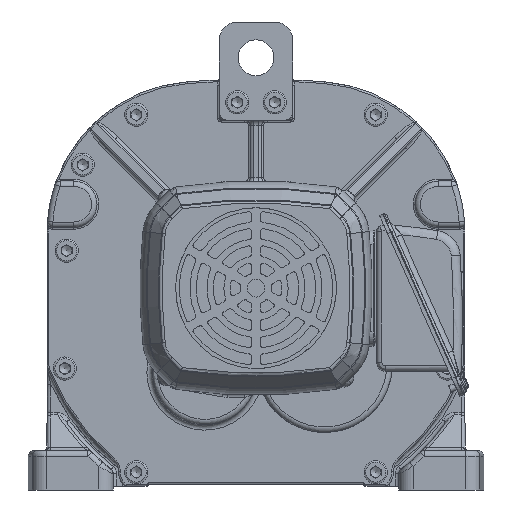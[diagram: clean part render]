
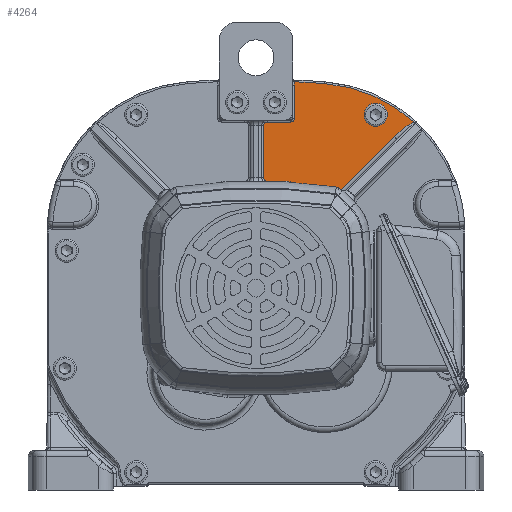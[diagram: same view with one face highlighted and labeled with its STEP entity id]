
A CAD part, front view. The second image highlights one B-rep face of the part: STEP entity #4264.
In plain terms, the highlighted planar face has unit normal (0, -1, 0).
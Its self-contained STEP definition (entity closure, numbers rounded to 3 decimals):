
#4264 = ADVANCED_FACE( '', ( #9738, #9739 ), #9740, .T. );
#9738 = FACE_OUTER_BOUND( '', #21964, .T. );
#9739 = FACE_BOUND( '', #21965, .T. );
#9740 = PLANE( '', #21966 );
#21964 = EDGE_LOOP( '', ( #43056, #43057, #43058, #43059, #43060, #43061, #43062, #43063, #43064, #43065, #43066, #43067, #43068, #43069, #43070 ) );
#21965 = EDGE_LOOP( '', ( #43071 ) );
#21966 = AXIS2_PLACEMENT_3D( '', #43072, #43073, #43074 );
#43056 = ORIENTED_EDGE( '', *, *, #56041, .T. );
#43057 = ORIENTED_EDGE( '', *, *, #56365, .T. );
#43058 = ORIENTED_EDGE( '', *, *, #56366, .T. );
#43059 = ORIENTED_EDGE( '', *, *, #56367, .T. );
#43060 = ORIENTED_EDGE( '', *, *, #56368, .T. );
#43061 = ORIENTED_EDGE( '', *, *, #55199, .T. );
#43062 = ORIENTED_EDGE( '', *, *, #53041, .T. );
#43063 = ORIENTED_EDGE( '', *, *, #56369, .T. );
#43064 = ORIENTED_EDGE( '', *, *, #52726, .T. );
#43065 = ORIENTED_EDGE( '', *, *, #52275, .T. );
#43066 = ORIENTED_EDGE( '', *, *, #56370, .F. );
#43067 = ORIENTED_EDGE( '', *, *, #52027, .T. );
#43068 = ORIENTED_EDGE( '', *, *, #55761, .T. );
#43069 = ORIENTED_EDGE( '', *, *, #54102, .T. );
#43070 = ORIENTED_EDGE( '', *, *, #56371, .T. );
#43071 = ORIENTED_EDGE( '', *, *, #54301, .F. );
#43072 = CARTESIAN_POINT( '', ( 200.839, 6.777, -103. ) );
#43073 = DIRECTION( '', ( 0., -1., 0. ) );
#43074 = DIRECTION( '', ( 0., 0., -1. ) );
#52027 = EDGE_CURVE( '', #59297, #59298, #59299, .T. );
#52275 = EDGE_CURVE( '', #59724, #59722, #59725, .F. );
#52726 = EDGE_CURVE( '', #60502, #59724, #60503, .T. );
#53041 = EDGE_CURVE( '', #61033, #61031, #61034, .F. );
#54102 = EDGE_CURVE( '', #62739, #62737, #62740, .T. );
#54301 = EDGE_CURVE( '', #63047, #63047, #63048, .T. );
#55199 = EDGE_CURVE( '', #64395, #61033, #64396, .F. );
#55761 = EDGE_CURVE( '', #59298, #62739, #65215, .F. );
#56041 = EDGE_CURVE( '', #65596, #65594, #65597, .F. );
#56365 = EDGE_CURVE( '', #65594, #62506, #66063, .F. );
#56366 = EDGE_CURVE( '', #62506, #66064, #66065, .T. );
#56367 = EDGE_CURVE( '', #66064, #66066, #66067, .T. );
#56368 = EDGE_CURVE( '', #66066, #64395, #66068, .F. );
#56369 = EDGE_CURVE( '', #61031, #60502, #66069, .F. );
#56370 = EDGE_CURVE( '', #59297, #59722, #66070, .F. );
#56371 = EDGE_CURVE( '', #62737, #65596, #66071, .F. );
#59297 = VERTEX_POINT( '', #70033 );
#59298 = VERTEX_POINT( '', #70034 );
#59299 = LINE( '', #70035, #70036 );
#59722 = VERTEX_POINT( '', #70990 );
#59724 = VERTEX_POINT( '', #70992 );
#59725 = LINE( '', #70993, #70994 );
#60502 = VERTEX_POINT( '', #72362 );
#60503 = CIRCLE( '', #72363, 2. );
#61031 = VERTEX_POINT( '', #73616 );
#61033 = VERTEX_POINT( '', #73618 );
#61034 = CIRCLE( '', #73619, 2. );
#62506 = VERTEX_POINT( '', #76488 );
#62737 = VERTEX_POINT( '', #77124 );
#62739 = VERTEX_POINT( '', #77126 );
#62740 = LINE( '', #77127, #77128 );
#63047 = VERTEX_POINT( '', #77602 );
#63048 = CIRCLE( '', #77603, 6.5 );
#64395 = VERTEX_POINT( '', #80144 );
#64396 = LINE( '', #80145, #80146 );
#65215 = CIRCLE( '', #81633, 16. );
#65594 = VERTEX_POINT( '', #82513 );
#65596 = VERTEX_POINT( '', #82515 );
#65597 = LINE( '', #82516, #82517 );
#66063 = ELLIPSE( '', #83542, 13.81, 3. );
#66064 = VERTEX_POINT( '', #83543 );
#66065 = CIRCLE( '', #83544, 84. );
#66066 = VERTEX_POINT( '', #83545 );
#66067 = CIRCLE( '', #83546, 499. );
#66068 = CIRCLE( '', #83547, 4. );
#66069 = LINE( '', #83548, #83549 );
#66070 = CIRCLE( '', #83550, 2. );
#66071 = CIRCLE( '', #83551, 16. );
#70033 = CARTESIAN_POINT( '', ( 140.089, 6.777, 59.804 ) );
#70034 = CARTESIAN_POINT( '', ( 149.527, 6.777, 59.804 ) );
#70035 = CARTESIAN_POINT( '', ( 149.527, 6.777, 59.804 ) );
#70036 = VECTOR( '', #89718, 1000. );
#70990 = CARTESIAN_POINT( '', ( 138.089, 6.777, 61.804 ) );
#70992 = CARTESIAN_POINT( '', ( 138.089, 6.777, 91. ) );
#70993 = CARTESIAN_POINT( '', ( 138.089, 6.777, 58.804 ) );
#70994 = VECTOR( '', #90061, 1000. );
#72362 = CARTESIAN_POINT( '', ( 140.089, 6.777, 93. ) );
#72363 = AXIS2_PLACEMENT_3D( '', #90732, #90733, #90734 );
#73616 = CARTESIAN_POINT( '', ( 153.339, 6.777, 93. ) );
#73618 = CARTESIAN_POINT( '', ( 155.339, 6.777, 95. ) );
#73619 = AXIS2_PLACEMENT_3D( '', #91207, #91208, #91209 );
#76488 = CARTESIAN_POINT( '', ( 222.529, 6.777, 92.75 ) );
#77124 = CARTESIAN_POINT( '', ( 170.587, 6.777, 56.337 ) );
#77126 = CARTESIAN_POINT( '', ( 152.305, 6.777, 59.561 ) );
#77127 = CARTESIAN_POINT( '', ( 170.587, 6.777, 56.337 ) );
#77128 = VECTOR( '', #92635, 1000. );
#77602 = CARTESIAN_POINT( '', ( 200.839, 6.777, 103.5 ) );
#77603 = AXIS2_PLACEMENT_3D( '', #92929, #92930, #92931 );
#80144 = CARTESIAN_POINT( '', ( 155.339, 6.777, 113.692 ) );
#80145 = CARTESIAN_POINT( '', ( 155.339, 6.777, -103. ) );
#80146 = VECTOR( '', #94082, 1000. );
#81633 = AXIS2_PLACEMENT_3D( '', #94872, #94873, #94874 );
#82513 = CARTESIAN_POINT( '', ( 211.293, 6.777, 84.879 ) );
#82515 = CARTESIAN_POINT( '', ( 178.708, 6.777, 52.294 ) );
#82516 = CARTESIAN_POINT( '', ( 217.648, 6.777, 91.233 ) );
#82517 = VECTOR( '', #95196, 1000. );
#83542 = AXIS2_PLACEMENT_3D( '', #95773, #95774, #95775 );
#83543 = CARTESIAN_POINT( '', ( 172.316, 6.777, 114.514 ) );
#83544 = AXIS2_PLACEMENT_3D( '', #95776, #95777, #95778 );
#83545 = CARTESIAN_POINT( '', ( 154.878, 6.777, 115.556 ) );
#83546 = AXIS2_PLACEMENT_3D( '', #95779, #95780, #95781 );
#83547 = AXIS2_PLACEMENT_3D( '', #95782, #95783, #95784 );
#83548 = CARTESIAN_POINT( '', ( 200.839, 6.777, 93. ) );
#83549 = VECTOR( '', #95785, 1000. );
#83550 = AXIS2_PLACEMENT_3D( '', #95786, #95787, #95788 );
#83551 = AXIS2_PLACEMENT_3D( '', #95789, #95790, #95791 );
#89718 = DIRECTION( '', ( 1., 0., 0. ) );
#90061 = DIRECTION( '', ( 0., 0., 1. ) );
#90732 = CARTESIAN_POINT( '', ( 140.089, 6.777, 91. ) );
#90733 = DIRECTION( '', ( 0., -1., 0. ) );
#90734 = DIRECTION( '', ( 0., 0., -1. ) );
#91207 = CARTESIAN_POINT( '', ( 153.339, 6.777, 95. ) );
#91208 = DIRECTION( '', ( 0., -1., 0. ) );
#91209 = DIRECTION( '', ( 0., 0., -1. ) );
#92635 = DIRECTION( '', ( 0.985, 0., -0.174 ) );
#92929 = CARTESIAN_POINT( '', ( 200.839, 6.777, 97. ) );
#92930 = DIRECTION( '', ( 0., -1., 0. ) );
#92931 = DIRECTION( '', ( 0., 0., 1. ) );
#94082 = DIRECTION( '', ( 0., 0., 1. ) );
#94872 = CARTESIAN_POINT( '', ( 149.527, 6.777, 43.804 ) );
#94873 = DIRECTION( '', ( 0., -1., 0. ) );
#94874 = DIRECTION( '', ( 0., 0., -1. ) );
#95196 = DIRECTION( '', ( -0.707, 0., -0.707 ) );
#95773 = CARTESIAN_POINT( '', ( 213.414, 6.777, 82.757 ) );
#95774 = DIRECTION( '', ( 0., -1., 0. ) );
#95775 = DIRECTION( '', ( 0.707, 0., 0.707 ) );
#95776 = CARTESIAN_POINT( '', ( 165.839, 6.777, 30.764 ) );
#95777 = DIRECTION( '', ( 0., -1., 0. ) );
#95778 = DIRECTION( '', ( 0., 0., -1. ) );
#95779 = CARTESIAN_POINT( '', ( 133.839, 6.777, -383. ) );
#95780 = DIRECTION( '', ( 0., -1., 0. ) );
#95781 = DIRECTION( '', ( 0., 0., -1. ) );
#95782 = CARTESIAN_POINT( '', ( 151.339, 6.777, 113.692 ) );
#95783 = DIRECTION( '', ( 0., -1., 0. ) );
#95784 = DIRECTION( '', ( 0., 0., -1. ) );
#95785 = DIRECTION( '', ( 1., 0., 0. ) );
#95786 = CARTESIAN_POINT( '', ( 140.089, 6.777, 61.804 ) );
#95787 = DIRECTION( '', ( 0., -1., 0. ) );
#95788 = DIRECTION( '', ( 0., 0., -1. ) );
#95789 = CARTESIAN_POINT( '', ( 167.809, 6.777, 40.581 ) );
#95790 = DIRECTION( '', ( 0., -1., 0. ) );
#95791 = DIRECTION( '', ( 0., 0., -1. ) );
